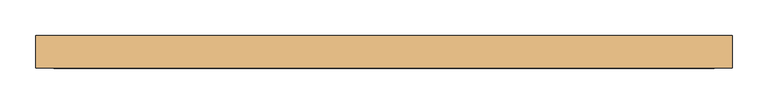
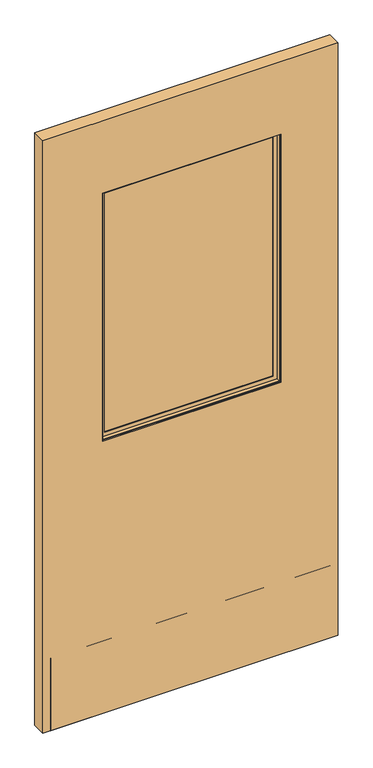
"""IFC4 building model written with IfcOpenShell, lengths in millimetres: door geometry, Solid_Hinged_Door_Glass_insert-AIH-Teknion-FHDB-Leaf_Single-R2022 : (A) Justified Half Glass insert."""

from ifc_helpers import new_model, si_unit, frame, origin, place, context, project, spatial, polyline, outline, extrude, faceted_brep, source, transform, mapped, element, save


def door_3cfd2c72(model_context):
    return source(origin(), model_context, "Body", "SolidModel", [
        extrude(outline(polyline([(300.7535674, 3.175), (300.7535674, -3.175), (-291.0664326, -3.175), (-291.0664326, 3.175), (300.7535674, 3.175)])), frame((0.0, 0.0, 968.7435027), z_axis=(0.0, 0.0, 1.0), x_axis=(1.0, 0.0, 0.0)), (0.0, 0.0, 1.0), 871.22),
        faceted_brep([(-275.1758536, -3.797467, 1824.0729238), (-275.1758536, -6.9755828, 1824.0729238), (-275.1758536, -6.9755828, 984.6340817), (-275.1758536, -3.797467, 984.6340817), (284.8629885, -6.9755828, 984.6340817), (284.8629885, -3.797467, 984.6340817), (297.5754516, -6.9755828, 971.9216185), (297.5754516, -6.9755828, 1836.7853869), (-287.8883168, -6.9755828, 1836.7853869), (-287.8883168, -6.9755828, 971.9216185), (284.8629885, -6.9755828, 1824.0729238), (284.8629885, -3.797467, 1824.0729238), (-291.0664326, -3.797467, 968.7435027), (-291.0664326, -3.797467, 1839.9635027), (300.7535674, -3.797467, 1839.9635027), (300.7535674, -3.797467, 968.7435027), (-291.0664326, -19.688046, 1839.9635027), (-291.0664326, -19.688046, 968.7435027), (300.7535674, -19.688046, 968.7435027), (300.7535674, -19.688046, 1839.9635027), (-287.8883168, -19.688046, 971.9216185), (-287.8883168, -19.688046, 1836.7853869), (297.5754516, -19.688046, 1836.7853869), (297.5754516, -19.688046, 971.9216185)], [[[0, 1, 2, 3]], [[3, 2, 4, 5]], [[6, 7, 8, 9], [2, 1, 10, 4]], [[5, 4, 10, 11]], [[12, 13, 14, 15], [5, 11, 0, 3]], [[16, 13, 12, 17]], [[17, 12, 15, 18]], [[18, 15, 14, 19]], [[18, 19, 16, 17], [20, 21, 22, 23]], [[8, 21, 20, 9]], [[9, 20, 23, 6]], [[6, 23, 22, 7]], [[11, 10, 1, 0]], [[19, 14, 13, 16]], [[7, 22, 21, 8]]]),
        faceted_brep([(-287.8883168, 19.688046, 1836.7853869), (-287.8883168, 6.9755828, 1836.7853869), (-287.8883168, 6.9755828, 971.9216185), (-287.8883168, 19.688046, 971.9216185), (297.5754516, 6.9755828, 971.9216185), (297.5754516, 19.688046, 971.9216185), (297.5754516, 6.9755828, 1836.7853869), (284.8629885, 6.9755828, 984.6340817), (284.8629885, 6.9755828, 1824.0729238), (-275.1758536, 6.9755828, 1824.0729238), (-275.1758536, 6.9755828, 984.6340817), (297.5754516, 19.688046, 1836.7853869), (-291.0664326, 19.688046, 968.7435027), (-291.0664326, 19.688046, 1839.9635027), (300.7535674, 19.688046, 1839.9635027), (300.7535674, 19.688046, 968.7435027), (-291.0664326, 3.797467, 1839.9635027), (-291.0664326, 3.797467, 968.7435027), (300.7535674, 3.797467, 968.7435027), (300.7535674, 3.797467, 1839.9635027), (-275.1758536, 3.797467, 984.6340817), (-275.1758536, 3.797467, 1824.0729238), (284.8629885, 3.797467, 1824.0729238), (284.8629885, 3.797467, 984.6340817)], [[[0, 1, 2, 3]], [[3, 2, 4, 5]], [[2, 1, 6, 4], [7, 8, 9, 10]], [[5, 4, 6, 11]], [[12, 13, 14, 15], [5, 11, 0, 3]], [[16, 13, 12, 17]], [[17, 12, 15, 18]], [[18, 15, 14, 19]], [[18, 19, 16, 17], [20, 21, 22, 23]], [[9, 21, 20, 10]], [[10, 20, 23, 7]], [[7, 23, 22, 8]], [[11, 6, 1, 0]], [[19, 14, 13, 16]], [[8, 22, 21, 9]]]),
        extrude(outline(polyline([(2093.9635027, 490.4564326), (2093.9635027, -490.4564326), (12.7, -490.4564326), (12.7, 490.4564326), (2093.9635027, 490.4564326)]), holes=[polyline([(1839.9635027, -291.0664326), (1839.9635027, 300.7535674), (968.7435027, 300.7535674), (968.7435027, -291.0664326), (1839.9635027, -291.0664326)])]), frame((0.0, -23.114, 0.0), z_axis=(0.0, 1.0, 0.0), x_axis=(0.0, 0.0, 1.0)), (0.0, 0.0, 1.0), 46.228),
        extrude(outline(polyline([(465.0564326, -9.8925062), (465.0564326, -11.4927062), (-465.0564326, -11.4927062), (-465.0564326, -9.8925062), (465.0564326, -9.8925062)])), frame((0.0, 0.0, 12.7), z_axis=(0.0, 0.0, 1.0), x_axis=(1.0, 0.0, 0.0)), (0.0, 0.0, 1.0), 254.0),
        extrude(outline(polyline([(465.0564326, -21.5634094), (465.0564326, -23.114), (-465.0564326, -23.114), (-465.0564326, -21.5634094), (465.0564326, -21.5634094)])), frame((0.0, 0.0, 12.7), z_axis=(0.0, 0.0, 1.0), x_axis=(1.0, 0.0, 0.0)), (0.0, 0.0, 1.0), 254.0),
    ])


if __name__ == "__main__":
    model = new_model("IFC4")
    model_context = context("Model", 3, world=origin())
    ifc_project = project(units=[si_unit("LENGTHUNIT", "METRE", prefix="MILLI")], contexts=[model_context])
    site = spatial("IfcSite", under=ifc_project)
    building = spatial("IfcBuilding", under=site)
    placement = place(None, origin())
    door_shape = door_3cfd2c72(model_context)
    element("IfcDoor", 1, ObjectType="Solid_Hinged_Door_Glass_insert-AIH-Teknion-FHDB-Leaf_Single-R2022 : (A) Justified Half Glass insert", at=placement, inside=building, context=model_context, shape_type="MappedRepresentation", body=[
        mapped(door_shape, transform((0.0, 0.0, 0.0), x_axis=(1.0, 0.0, 0.0), y_axis=(0.0, 1.0, 0.0), z_axis=(0.0, 0.0, 1.0))),
    ])
    save(model, "model.ifc")
